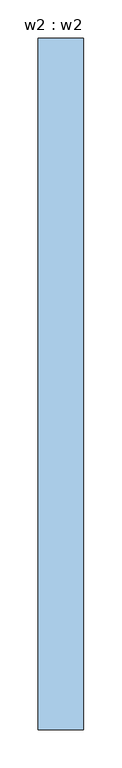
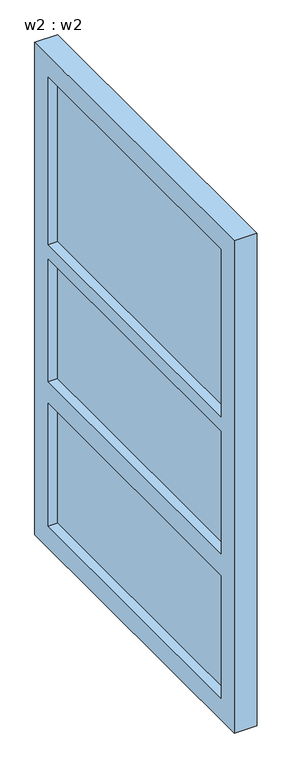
"""IFC4 building model written with IfcOpenShell, lengths in millimetres: window geometry, w2 : w2."""

from ifc_helpers import new_model, si_unit, frame, origin, place, context, project, spatial, polyline, outline, extrude, source, transform, mapped, element, save


def w2_w2_0691327d(model_context):
    return source(origin(), model_context, "Body", "SweptSolid", [
        extrude(outline(polyline([(-1157.5469454, 8190.0752359), (-1157.5469454, 8976.374825), (-1147.5469454, 8976.374825), (-1147.5469454, 8190.0752359), (-1157.5469454, 8190.0752359)])), frame((0.0, 0.0, 6026.1727713), z_axis=(0.0, 0.0, 1.0), x_axis=(1.0, 0.0, 0.0)), (0.0, 0.0, 1.0), 340.0),
        extrude(outline(polyline([(-1157.5469454, 8190.0752359), (-1157.5469454, 8976.374825), (-1147.5469454, 8976.374825), (-1147.5469454, 8190.0752359), (-1157.5469454, 8190.0752359)])), frame((0.0, 0.0, 6426.1727713), z_axis=(0.0, 0.0, 1.0), x_axis=(1.0, 0.0, 0.0)), (0.0, 0.0, 1.0), 340.0),
        extrude(outline(polyline([(-1157.5469454, 8190.0752359), (-1157.5469454, 8976.374825), (-1147.5469454, 8976.374825), (-1147.5469454, 8190.0752359), (-1157.5469454, 8190.0752359)])), frame((0.0, 0.0, 6806.1727713), z_axis=(0.0, 0.0, 1.0), x_axis=(1.0, 0.0, 0.0)), (0.0, 0.0, 1.0), 463.8272287),
        extrude(outline(polyline([(9036.374825, 7330.0), (9036.374825, 5966.1727713), (8130.0752359, 5966.1727713), (8130.0752359, 7330.0), (9036.374825, 7330.0)]), holes=[polyline([(8190.0752359, 7270.0), (8190.0752359, 6806.1727713), (8976.374825, 6806.1727713), (8976.374825, 7270.0), (8190.0752359, 7270.0)]), polyline([(8976.374825, 6366.1727713), (8190.0752359, 6366.1727713), (8190.0752359, 6026.1727713), (8976.374825, 6026.1727713), (8976.374825, 6366.1727713)]), polyline([(8190.0752359, 6426.1727713), (8976.374825, 6426.1727713), (8976.374825, 6766.1727713), (8190.0752359, 6766.1727713), (8190.0752359, 6426.1727713)])]), frame((-1182.5469454, 0.0, 0.0), z_axis=(1.0, 0.0, 0.0), x_axis=(0.0, 1.0, 0.0)), (0.0, 0.0, 1.0), 60.0),
    ])


if __name__ == "__main__":
    model = new_model("IFC4")
    model_context = context("Model", 3, world=origin())
    ifc_project = project(units=[si_unit("LENGTHUNIT", "METRE", prefix="MILLI")], contexts=[model_context])
    site = spatial("IfcSite", under=ifc_project)
    building = spatial("IfcBuilding", under=site)
    placement = place(None, origin())
    w2_w2_shape = w2_w2_0691327d(model_context)
    element("IfcWindow", 1, ObjectType="w2 : w2", at=placement, inside=building, context=model_context, shape_type="MappedRepresentation", body=[
        mapped(w2_w2_shape, transform((0.0, 0.0, 0.0), x_axis=(1.0, 0.0, 0.0), y_axis=(0.0, 1.0, 0.0), z_axis=(0.0, 0.0, 1.0))),
    ])
    save(model, "model.ifc")
